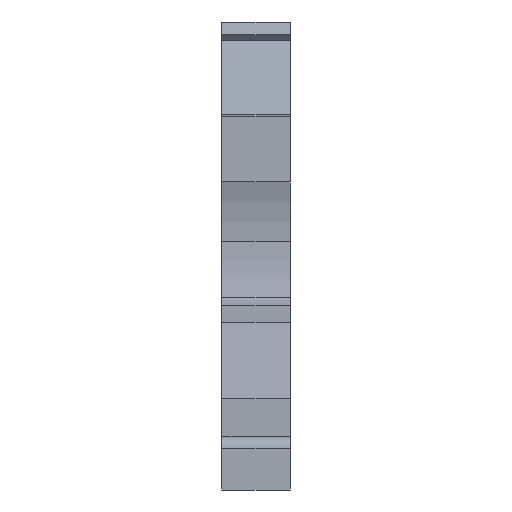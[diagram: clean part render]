
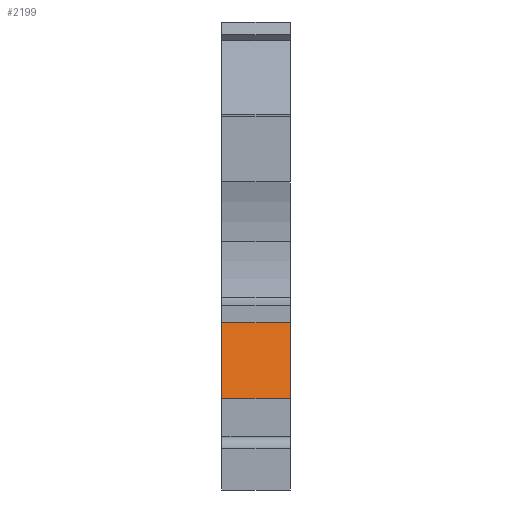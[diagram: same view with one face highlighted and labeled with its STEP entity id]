
A CAD part, front view. The second image highlights one B-rep face of the part: STEP entity #2199.
In plain terms, the highlighted planar face has unit normal (0, -0.985, 0.174).
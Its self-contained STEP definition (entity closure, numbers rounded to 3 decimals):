
#287=CARTESIAN_POINT('',(-0.,3.6,6.862));
#288=VERTEX_POINT('',#287);
#294=CARTESIAN_POINT('',(-0.,4.612,12.6));
#295=VERTEX_POINT('',#294);
#296=CARTESIAN_POINT('',(-0.,4.612,12.6));
#297=CARTESIAN_POINT('',(-0.,3.6,6.862));
#298=B_SPLINE_CURVE_WITH_KNOTS('',1,(#296,#297),.UNSPECIFIED.,.F.,.F.,(2,2),(0.,5.827),.UNSPECIFIED.);
#299=EDGE_CURVE('',#295,#288,#298,.T.);
#2087=CARTESIAN_POINT('',(5.15,4.612,12.6));
#2088=VERTEX_POINT('',#2087);
#2095=CARTESIAN_POINT('',(5.15,3.6,6.862));
#2096=VERTEX_POINT('',#2095);
#2097=CARTESIAN_POINT('',(5.15,3.6,6.862));
#2098=CARTESIAN_POINT('',(5.15,4.612,12.6));
#2099=B_SPLINE_CURVE_WITH_KNOTS('',1,(#2097,#2098),.UNSPECIFIED.,.F.,.F.,(2,2),(0.,5.827),.UNSPECIFIED.);
#2100=EDGE_CURVE('',#2096,#2088,#2099,.T.);
#2179=CARTESIAN_POINT('',(5.15,3.615,6.948));
#2180=DIRECTION('',(0.,0.985,-0.174));
#2181=DIRECTION('',(-1.,0.,-0.));
#2182=AXIS2_PLACEMENT_3D('',#2179,#2180,#2181);
#2183=PLANE('',#2182);
#2184=CARTESIAN_POINT('',(5.15,4.612,12.6));
#2185=DIRECTION('',(-1.,0.,-0.));
#2186=VECTOR('',#2185,5.15);
#2187=LINE('',#2184,#2186);
#2188=EDGE_CURVE('',#2088,#295,#2187,.T.);
#2189=ORIENTED_EDGE('',*,*,#2188,.T.);
#2190=ORIENTED_EDGE('',*,*,#299,.T.);
#2191=CARTESIAN_POINT('',(-0.,3.6,6.862));
#2192=CARTESIAN_POINT('',(5.15,3.6,6.862));
#2193=B_SPLINE_CURVE_WITH_KNOTS('',1,(#2191,#2192),.UNSPECIFIED.,.F.,.F.,(2,2),(0.,5.15),.UNSPECIFIED.);
#2194=EDGE_CURVE('',#288,#2096,#2193,.T.);
#2195=ORIENTED_EDGE('',*,*,#2194,.T.);
#2196=ORIENTED_EDGE('',*,*,#2100,.T.);
#2197=EDGE_LOOP('',(#2189,#2190,#2195,#2196));
#2198=FACE_BOUND('',#2197,.T.);
#2199=ADVANCED_FACE('',(#2198),#2183,.F.);
